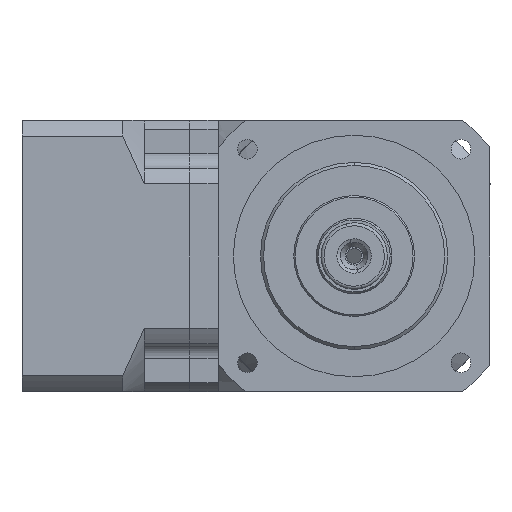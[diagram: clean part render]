
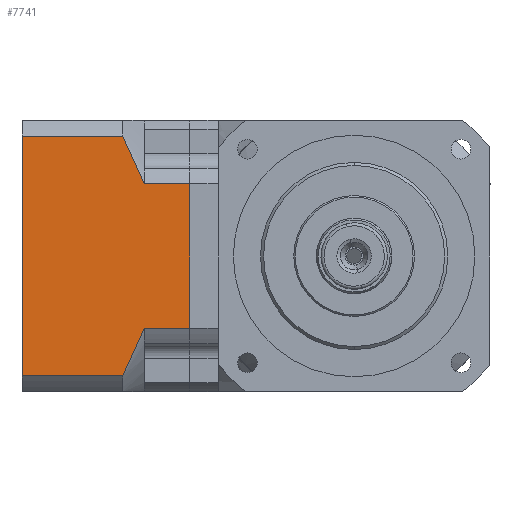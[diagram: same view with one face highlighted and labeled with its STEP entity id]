
A CAD part, left-side view. The second image highlights one B-rep face of the part: STEP entity #7741.
In plain terms, the highlighted planar face has unit normal (-1, 0, 0).
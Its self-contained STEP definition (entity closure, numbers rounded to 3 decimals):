
#33 = CARTESIAN_POINT ( 'NONE',  ( 43.5, 110., 39.686 ) ) ;
#118 = CARTESIAN_POINT ( 'NONE',  ( 43.5, 75.288, 37.14 ) ) ;
#261 = DIRECTION ( 'NONE',  ( 0., -1., 0. ) ) ;
#403 = CARTESIAN_POINT ( 'NONE',  ( 43.5, 69.5, -24. ) ) ;
#1893 = EDGE_CURVE ( 'NONE', #4802, #11997, #11994, .T. ) ;
#2220 = EDGE_CURVE ( 'NONE', #11997, #11310, #3738, .T. ) ;
#2571 = CARTESIAN_POINT ( 'NONE',  ( 43.5, 74.031, -34.554 ) ) ;
#2657 = CARTESIAN_POINT ( 'NONE',  ( 43.5, 54.5, 0. ) ) ;
#2749 = CARTESIAN_POINT ( 'NONE',  ( 43.5, 54.5, 24. ) ) ;
#2966 = DIRECTION ( 'NONE',  ( 0., 0., -1. ) ) ;
#2969 = EDGE_CURVE ( 'NONE', #9297, #8673, #11766, .T. ) ;
#3221 = LINE ( 'NONE', #9763, #10975 ) ;
#3573 = CARTESIAN_POINT ( 'NONE',  ( 43.5, 69.5, -24. ) ) ;
#3738 = B_SPLINE_CURVE_WITH_KNOTS ( 'NONE', 3,
 ( #3573, #4487, #5604, #9581, #2571, #11633, #12662, #9670 ),
 .UNSPECIFIED., .F., .F.,
 ( 4, 2, 2, 4 ),
 ( 0.138, 0.147, 0.151, 0.155 ),
 .UNSPECIFIED. ) ;
#3973 = ORIENTED_EDGE ( 'NONE', *, *, #9839, .F. ) ;
#4084 = CARTESIAN_POINT ( 'NONE',  ( 43.5, 59., -39.686 ) ) ;
#4394 = CARTESIAN_POINT ( 'NONE',  ( 43.5, 54.5, -24. ) ) ;
#4487 = CARTESIAN_POINT ( 'NONE',  ( 43.5, 70.498, -26.682 ) ) ;
#4613 = LINE ( 'NONE', #9013, #10339 ) ;
#4614 = DIRECTION ( 'NONE',  ( 0., 1., 0. ) ) ;
#4718 = CARTESIAN_POINT ( 'NONE',  ( 43.5, 69.5, 24. ) ) ;
#4772 = ORIENTED_EDGE ( 'NONE', *, *, #6098, .T. ) ;
#4802 = VERTEX_POINT ( 'NONE', #4394 ) ;
#5074 = CARTESIAN_POINT ( 'NONE',  ( 43.5, 76.62, 39.686 ) ) ;
#5103 = EDGE_CURVE ( 'NONE', #11310, #7266, #6447, .T. ) ;
#5161 = CARTESIAN_POINT ( 'NONE',  ( 43.5, 71.621, 29.346 ) ) ;
#5168 = ORIENTED_EDGE ( 'NONE', *, *, #1893, .F. ) ;
#5469 = ORIENTED_EDGE ( 'NONE', *, *, #5103, .F. ) ;
#5488 = VECTOR ( 'NONE', #4614, 1000. ) ;
#5604 = CARTESIAN_POINT ( 'NONE',  ( 43.5, 71.612, -29.326 ) ) ;
#5740 = DIRECTION ( 'NONE',  ( 0., -1., 0. ) ) ;
#5784 = DIRECTION ( 'NONE',  ( 0., 1., 0. ) ) ;
#5880 = PLANE ( 'NONE',  #10611 ) ;
#6098 = EDGE_CURVE ( 'NONE', #9824, #7266, #3221, .T. ) ;
#6293 = CARTESIAN_POINT ( 'NONE',  ( 43.5, 69.5, 24. ) ) ;
#6300 = ORIENTED_EDGE ( 'NONE', *, *, #7705, .F. ) ;
#6447 = LINE ( 'NONE', #4084, #9611 ) ;
#6653 = EDGE_LOOP ( 'NONE', ( #5469, #12417, #5168, #3973, #6300, #10578, #11394, #4772 ) ) ;
#6820 = CARTESIAN_POINT ( 'NONE',  ( 43.5, 76.62, 39.686 ) ) ;
#7135 = LINE ( 'NONE', #10869, #10607 ) ;
#7266 = VERTEX_POINT ( 'NONE', #12729 ) ;
#7276 = VECTOR ( 'NONE', #261, 1000. ) ;
#7569 = EDGE_CURVE ( 'NONE', #9824, #9297, #9195, .T. ) ;
#7705 = EDGE_CURVE ( 'NONE', #8673, #7781, #7135, .T. ) ;
#7741 = ADVANCED_FACE ( 'NONE', ( #7919 ), #5880, .F. ) ;
#7781 = VERTEX_POINT ( 'NONE', #2749 ) ;
#7919 = FACE_OUTER_BOUND ( 'NONE', #6653, .T. ) ;
#8402 = CARTESIAN_POINT ( 'NONE',  ( 43.5, 76.62, -39.686 ) ) ;
#8673 = VERTEX_POINT ( 'NONE', #4718 ) ;
#9013 = CARTESIAN_POINT ( 'NONE',  ( 43.5, 54.5, 0. ) ) ;
#9195 = LINE ( 'NONE', #10406, #7276 ) ;
#9297 = VERTEX_POINT ( 'NONE', #6820 ) ;
#9581 = CARTESIAN_POINT ( 'NONE',  ( 43.5, 73.41, -33.252 ) ) ;
#9611 = VECTOR ( 'NONE', #10259, 1000. ) ;
#9613 = CARTESIAN_POINT ( 'NONE',  ( 43.5, 66.5, -24. ) ) ;
#9670 = CARTESIAN_POINT ( 'NONE',  ( 43.5, 76.62, -39.686 ) ) ;
#9763 = CARTESIAN_POINT ( 'NONE',  ( 43.5, 110., 0. ) ) ;
#9824 = VERTEX_POINT ( 'NONE', #33 ) ;
#9839 = EDGE_CURVE ( 'NONE', #7781, #4802, #4613, .T. ) ;
#10141 = DIRECTION ( 'NONE',  ( 0., 0., -1. ) ) ;
#10259 = DIRECTION ( 'NONE',  ( 0., 1., 0. ) ) ;
#10339 = VECTOR ( 'NONE', #2966, 1000. ) ;
#10341 = CARTESIAN_POINT ( 'NONE',  ( 43.5, 70.505, 26.699 ) ) ;
#10406 = CARTESIAN_POINT ( 'NONE',  ( 43.5, 59., 39.686 ) ) ;
#10578 = ORIENTED_EDGE ( 'NONE', *, *, #2969, .F. ) ;
#10607 = VECTOR ( 'NONE', #5740, 1000. ) ;
#10611 = AXIS2_PLACEMENT_3D ( 'NONE', #2657, #11860, #5784 ) ;
#10869 = CARTESIAN_POINT ( 'NONE',  ( 43.5, 66.5, 24. ) ) ;
#10975 = VECTOR ( 'NONE', #10141, 1000. ) ;
#11310 = VERTEX_POINT ( 'NONE', #8402 ) ;
#11344 = CARTESIAN_POINT ( 'NONE',  ( 43.5, 74.013, 34.566 ) ) ;
#11394 = ORIENTED_EDGE ( 'NONE', *, *, #7569, .F. ) ;
#11633 = CARTESIAN_POINT ( 'NONE',  ( 43.5, 75.303, -37.135 ) ) ;
#11766 = B_SPLINE_CURVE_WITH_KNOTS ( 'NONE', 3,
 ( #5074, #118, #11344, #5161, #10341, #6293 ),
 .UNSPECIFIED., .F., .F.,
 ( 4, 2, 4 ),
 ( 0.072, 0.081, 0.089 ),
 .UNSPECIFIED. ) ;
#11860 = DIRECTION ( 'NONE',  ( 1., 0., 0. ) ) ;
#11994 = LINE ( 'NONE', #9613, #5488 ) ;
#11997 = VERTEX_POINT ( 'NONE', #403 ) ;
#12417 = ORIENTED_EDGE ( 'NONE', *, *, #2220, .F. ) ;
#12662 = CARTESIAN_POINT ( 'NONE',  ( 43.5, 75.955, -38.415 ) ) ;
#12729 = CARTESIAN_POINT ( 'NONE',  ( 43.5, 110., -39.686 ) ) ;
